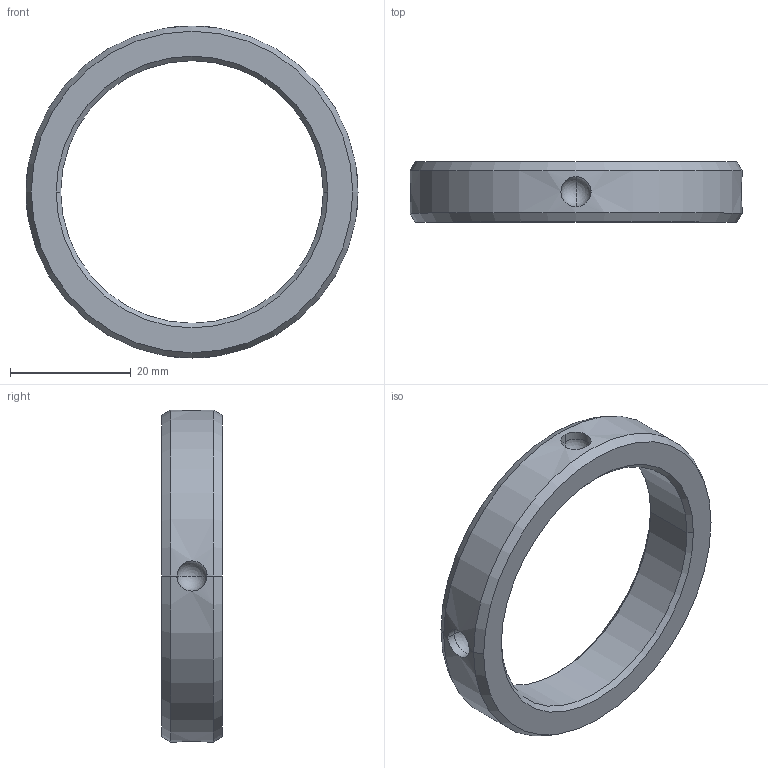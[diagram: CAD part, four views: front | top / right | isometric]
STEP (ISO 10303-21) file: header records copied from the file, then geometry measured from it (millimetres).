
FILE_DESCRIPTION((''),'2;1');
FILE_NAME('8915309004','2015-04-09T',('vol1hc'),(''),'PRO/ENGINEER BY PARAMETRIC TECHNOLOGY CORPORATION, 2009380','PRO/ENGINEER BY PARAMETRIC TECHNOLOGY CORPORATION, 2009380','');
FILE_SCHEMA(('CONFIG_CONTROL_DESIGN'));
Length unit declared in the file: millimetre
Products named in the file (1): 8915309004
Bounding box: 55 x 10 x 55 mm (x, y, z)
Volume: 8350.2 mm3; surface area: 4700.5 mm2
Topology: 1 solids, 1 shells, 30 faces, 70 edges, 36 vertices
Faces by surface type: cylinder 12, cone 8, sphere 8, plane 2
Entity records: 1124 total; most frequent: CARTESIAN_POINT 424, DIRECTION 146, ORIENTED_EDGE 124, AXIS2_PLACEMENT_3D 62, EDGE_CURVE 62, VERTEX_POINT 36, EDGE_LOOP 34, CIRCLE 32
